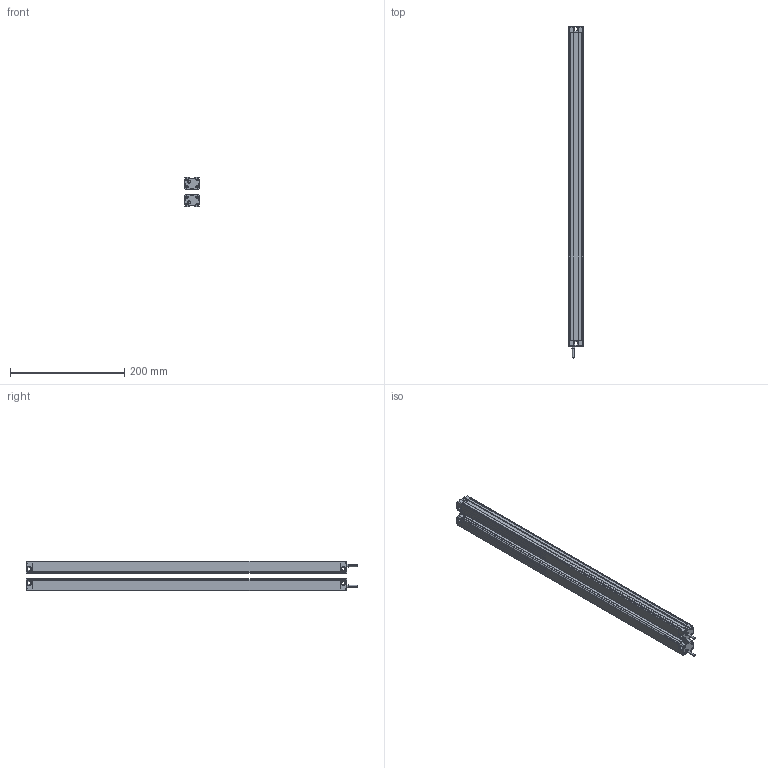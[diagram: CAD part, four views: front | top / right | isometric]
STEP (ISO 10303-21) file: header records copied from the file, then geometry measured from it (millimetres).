
FILE_DESCRIPTION (( 'STEP AP214' ), '1' );
FILE_NAME ('MTC5410.STEP', '2022-12-02T08:10:06', ( '' ), ( '' ), 'SwSTEP 2.0', 'SolidWorks 2018', '' );
FILE_SCHEMA (( 'AUTOMOTIVE_DESIGN' ));
Length unit declared in the file: millimetre
Products named in the file (5): MTC5410; MTC waike^MTC; P01^MTC; P02^MTC; 噩砃P02^MTC
Assembly tree (6 placements, depth 2):
  MTC5410
    MTC waike^MTC  x2
    P01^MTC  x2
    P02^MTC
    噩砃P02^MTC
Bounding box: 25 x 582 x 51.4 mm (x, y, z)
Volume: 189086.1 mm3; surface area: 257430.1 mm2
Topology: 8 solids, 8 shells, 480 faces, 1396 edges, 924 vertices
Faces by surface type: plane 272, cylinder 208
Entity records: 10886 total; most frequent: DIRECTION 1881, CARTESIAN_POINT 1878, ORIENTED_EDGE 1846, EDGE_CURVE 923, AXIS2_PLACEMENT_3D 637, VERTEX_POINT 610, LINE 607, VECTOR 607
